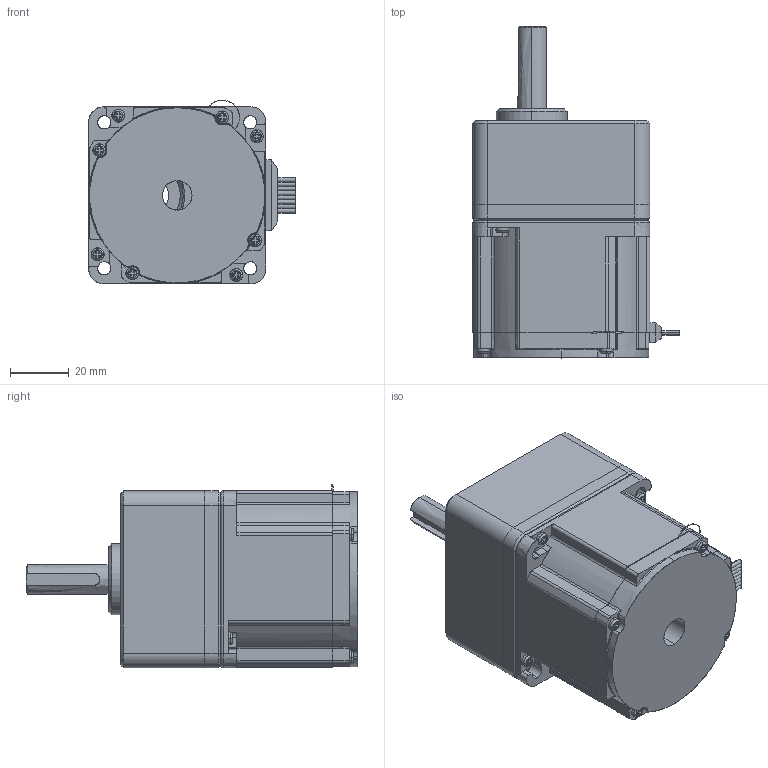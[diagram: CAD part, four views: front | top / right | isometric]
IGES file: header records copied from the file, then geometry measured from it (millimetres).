
Start section: SolidWorks IGES file using analytic representation for surfaces
Global section: file name: \\192.168.10.221\kari\7677\PMBA-30系　WEB用【最新版】\PMBA-30CKF-SA_SD.IGS; native system: SolidWorks 2009; preprocessor: SolidWorks 2009; author: 3dcad; date: 101209.160209; units: millimetre
Bounding box: 70 x 112.5 x 62.27 mm (x, y, z)
Surface area: 39218.8 mm2 (no closed solid volume)
Topology: 0 solids, 0 shells, 490 faces, 5135 edges, 5127 vertices
Faces by surface type: bspline 246, revolution 244
